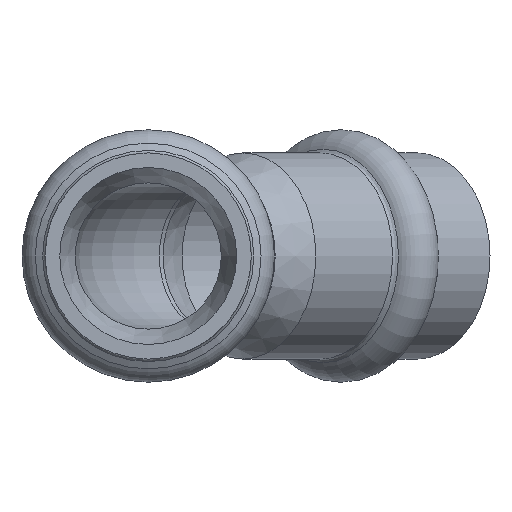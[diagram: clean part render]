
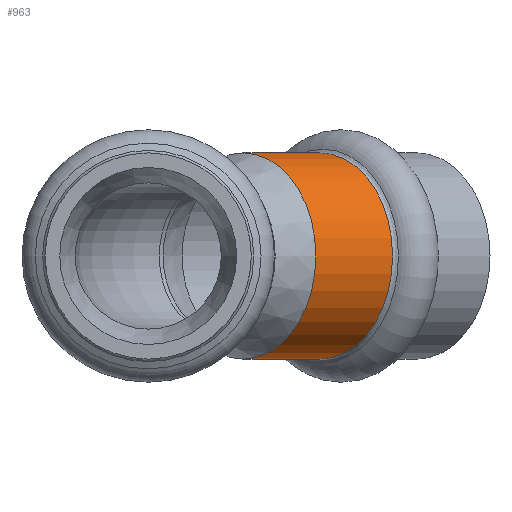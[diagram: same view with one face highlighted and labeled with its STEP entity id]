
A CAD part, left-side view. The second image highlights one B-rep face of the part: STEP entity #963.
In plain terms, the highlighted cylindrical face has radius 10.575 mm (diameter 21.15 mm), a full revolution.
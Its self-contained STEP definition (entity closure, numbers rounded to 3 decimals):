
#921=CARTESIAN_POINT('',(34.176,-10.108,0.));
#922=VERTEX_POINT('',#921);
#923=CARTESIAN_POINT('',(26.698,-17.586,0.0));
#924=DIRECTION('',(0.707,-0.707,0.0));
#925=DIRECTION('',(-0.707,-0.707,0.));
#926=AXIS2_PLACEMENT_3D('',#923,#924,#925);
#927=CIRCLE('',#926,10.575);
#928=EDGE_CURVE('',#922,#922,#927,.T.);
#944=CARTESIAN_POINT('',(22.905,-13.793,0.0));
#945=DIRECTION('',(0.707,-0.707,0.0));
#946=DIRECTION('',(0.707,0.707,0.0));
#947=AXIS2_PLACEMENT_3D('',#944,#945,#946);
#948=CYLINDRICAL_SURFACE('',#947,10.575);
#949=CARTESIAN_POINT('',(26.303,-2.235,0.0));
#950=VERTEX_POINT('',#949);
#951=CARTESIAN_POINT('',(18.825,-9.712,0.0));
#952=DIRECTION('',(0.707,-0.707,0.0));
#953=DIRECTION('',(0.707,0.707,0.0));
#954=AXIS2_PLACEMENT_3D('',#951,#952,#953);
#955=CIRCLE('',#954,10.575);
#956=EDGE_CURVE('',#950,#950,#955,.T.);
#957=ORIENTED_EDGE('',*,*,#956,.T.);
#958=EDGE_LOOP('',(#957));
#959=FACE_OUTER_BOUND('',#958,.T.);
#960=ORIENTED_EDGE('',*,*,#928,.F.);
#961=EDGE_LOOP('',(#960));
#962=FACE_BOUND('',#961,.T.);
#963=ADVANCED_FACE('',(#959,#962),#948,.T.);
